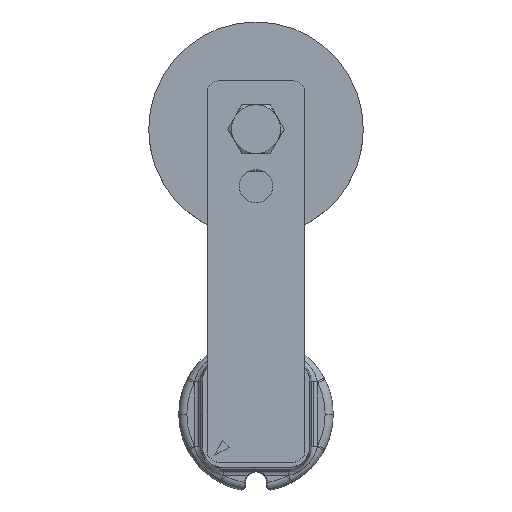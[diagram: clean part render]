
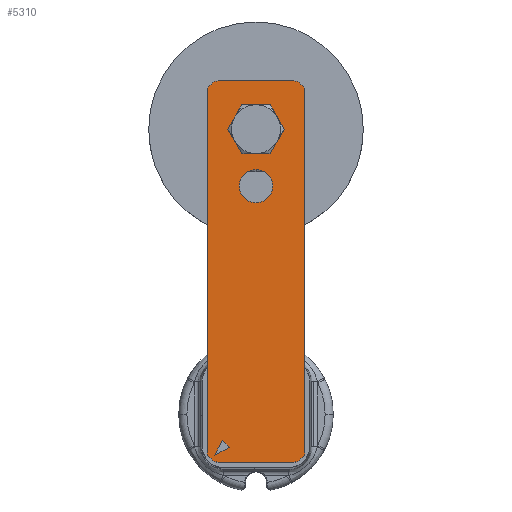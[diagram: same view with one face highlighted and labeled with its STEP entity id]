
A CAD part, top view. The second image highlights one B-rep face of the part: STEP entity #5310.
In plain terms, the highlighted planar face has unit normal (0, 0, 1).
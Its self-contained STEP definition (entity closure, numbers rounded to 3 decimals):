
#4842=CARTESIAN_POINT('',(103.855,17.833,10.0));
#4843=VERTEX_POINT('',#4842);
#4859=CARTESIAN_POINT('',(83.355,17.833,10.0));
#4860=VERTEX_POINT('',#4859);
#4867=CARTESIAN_POINT('',(93.605,17.833,10.0));
#4868=DIRECTION('',(0.0,0.0,-1.0));
#4869=DIRECTION('',(1.0,0.0,0.0));
#4870=AXIS2_PLACEMENT_3D('',#4867,#4868,#4869);
#4871=CIRCLE('',#4870,10.25);
#4872=EDGE_CURVE('',#4843,#4860,#4871,.T.);
#4905=CARTESIAN_POINT('',(68.855,17.833,10.0));
#4906=VERTEX_POINT('',#4905);
#4922=CARTESIAN_POINT('',(48.355,17.833,10.0));
#4923=VERTEX_POINT('',#4922);
#4930=CARTESIAN_POINT('',(58.605,17.833,10.0));
#4931=DIRECTION('',(0.0,0.0,-1.0));
#4932=DIRECTION('',(1.0,0.0,0.0));
#4933=AXIS2_PLACEMENT_3D('',#4930,#4931,#4932);
#4934=CIRCLE('',#4933,10.25);
#4935=EDGE_CURVE('',#4906,#4923,#4934,.T.);
#4955=CARTESIAN_POINT('',(-97.738,38.418,10.0));
#4956=VERTEX_POINT('',#4955);
#4963=CARTESIAN_POINT('',(-106.941,43.357,10.0));
#4964=VERTEX_POINT('',#4963);
#4965=CARTESIAN_POINT('',(-106.941,43.357,10.0));
#4966=DIRECTION('',(0.881,-0.473,0.0));
#4967=VECTOR('',#4966,10.445);
#4968=LINE('',#4965,#4967);
#4969=EDGE_CURVE('',#4964,#4956,#4968,.T.);
#4994=CARTESIAN_POINT('',(-101.981,34.176,10.0));
#4995=VERTEX_POINT('',#4994);
#4996=CARTESIAN_POINT('',(-101.981,34.176,10.0));
#4997=DIRECTION('',(-0.475,0.88,0.0));
#4998=VECTOR('',#4997,10.436);
#4999=LINE('',#4996,#4998);
#5000=EDGE_CURVE('',#4995,#4964,#4999,.T.);
#5023=CARTESIAN_POINT('',(-97.738,38.418,10.0));
#5024=DIRECTION('',(-0.707,-0.707,0.0));
#5025=VECTOR('',#5024,6.);
#5026=LINE('',#5023,#5025);
#5027=EDGE_CURVE('',#4956,#4995,#5026,.T.);
#5071=CARTESIAN_POINT('',(58.605,17.833,10.0));
#5072=DIRECTION('',(0.0,0.0,-1.0));
#5073=DIRECTION('',(1.0,0.0,0.0));
#5074=AXIS2_PLACEMENT_3D('',#5071,#5072,#5073);
#5075=CIRCLE('',#5074,10.25);
#5076=EDGE_CURVE('',#4923,#4906,#5075,.T.);
#5116=CARTESIAN_POINT('',(93.605,17.833,10.0));
#5117=DIRECTION('',(0.0,0.0,-1.0));
#5118=DIRECTION('',(1.0,0.0,0.0));
#5119=AXIS2_PLACEMENT_3D('',#5116,#5117,#5118);
#5120=CIRCLE('',#5119,10.25);
#5121=EDGE_CURVE('',#4860,#4843,#5120,.T.);
#5150=CARTESIAN_POINT('',(123.605,-4.167,10.0));
#5151=VERTEX_POINT('',#5150);
#5158=CARTESIAN_POINT('',(121.262,-9.824,10.0));
#5159=VERTEX_POINT('',#5158);
#5160=CARTESIAN_POINT('',(115.605,-4.167,10.0));
#5161=DIRECTION('',(0.0,0.0,1.));
#5162=DIRECTION('',(0.707,-0.707,0.0));
#5163=AXIS2_PLACEMENT_3D('',#5160,#5161,#5162);
#5164=CIRCLE('',#5163,8.);
#5165=EDGE_CURVE('',#5159,#5151,#5164,.T.);
#5190=CARTESIAN_POINT('',(118.919,-12.167,10.0));
#5191=VERTEX_POINT('',#5190);
#5192=CARTESIAN_POINT('',(118.919,-12.167,10.0));
#5193=DIRECTION('',(0.707,0.707,0.0));
#5194=VECTOR('',#5193,3.314);
#5195=LINE('',#5192,#5194);
#5196=EDGE_CURVE('',#5191,#5159,#5195,.T.);
#5207=CARTESIAN_POINT('',(6.105,17.833,10.0));
#5208=DIRECTION('',(0.0,0.0,1.0));
#5209=DIRECTION('',(1.0,0.0,0.0));
#5210=AXIS2_PLACEMENT_3D('',#5207,#5208,#5209);
#5211=PLANE('',#5210);
#5212=ORIENTED_EDGE('',*,*,#5196,.T.);
#5213=ORIENTED_EDGE('',*,*,#5165,.T.);
#5214=CARTESIAN_POINT('',(123.605,39.833,10.0));
#5215=VERTEX_POINT('',#5214);
#5216=CARTESIAN_POINT('',(123.605,39.833,10.0));
#5217=DIRECTION('',(0.0,-1.0,0.0));
#5218=VECTOR('',#5217,44.);
#5219=LINE('',#5216,#5218);
#5220=EDGE_CURVE('',#5215,#5151,#5219,.T.);
#5221=ORIENTED_EDGE('',*,*,#5220,.F.);
#5222=CARTESIAN_POINT('',(121.262,45.49,10.0));
#5223=VERTEX_POINT('',#5222);
#5224=CARTESIAN_POINT('',(115.605,39.833,10.0));
#5225=DIRECTION('',(0.0,0.0,1.0));
#5226=DIRECTION('',(0.707,0.707,0.0));
#5227=AXIS2_PLACEMENT_3D('',#5224,#5225,#5226);
#5228=CIRCLE('',#5227,8.);
#5229=EDGE_CURVE('',#5215,#5223,#5228,.T.);
#5230=ORIENTED_EDGE('',*,*,#5229,.T.);
#5231=CARTESIAN_POINT('',(118.919,47.833,10.0));
#5232=VERTEX_POINT('',#5231);
#5233=CARTESIAN_POINT('',(121.262,45.49,10.0));
#5234=DIRECTION('',(-0.707,0.707,0.0));
#5235=VECTOR('',#5234,3.314);
#5236=LINE('',#5233,#5235);
#5237=EDGE_CURVE('',#5223,#5232,#5236,.T.);
#5238=ORIENTED_EDGE('',*,*,#5237,.T.);
#5239=CARTESIAN_POINT('',(-106.708,47.833,10.0));
#5240=VERTEX_POINT('',#5239);
#5241=CARTESIAN_POINT('',(-106.708,47.833,10.0));
#5242=DIRECTION('',(1.0,0.0,0.0));
#5243=VECTOR('',#5242,225.627);
#5244=LINE('',#5241,#5243);
#5245=EDGE_CURVE('',#5240,#5232,#5244,.T.);
#5246=ORIENTED_EDGE('',*,*,#5245,.F.);
#5247=CARTESIAN_POINT('',(-109.052,45.49,10.0));
#5248=VERTEX_POINT('',#5247);
#5249=CARTESIAN_POINT('',(-106.708,47.833,10.0));
#5250=DIRECTION('',(-0.707,-0.707,0.0));
#5251=VECTOR('',#5250,3.314);
#5252=LINE('',#5249,#5251);
#5253=EDGE_CURVE('',#5240,#5248,#5252,.T.);
#5254=ORIENTED_EDGE('',*,*,#5253,.T.);
#5255=CARTESIAN_POINT('',(-111.395,39.833,10.0));
#5256=VERTEX_POINT('',#5255);
#5257=CARTESIAN_POINT('',(-103.395,39.833,10.0));
#5258=DIRECTION('',(0.0,0.0,1.));
#5259=DIRECTION('',(-0.707,0.707,0.0));
#5260=AXIS2_PLACEMENT_3D('',#5257,#5258,#5259);
#5261=CIRCLE('',#5260,8.);
#5262=EDGE_CURVE('',#5248,#5256,#5261,.T.);
#5263=ORIENTED_EDGE('',*,*,#5262,.T.);
#5264=CARTESIAN_POINT('',(-111.395,-4.167,10.0));
#5265=VERTEX_POINT('',#5264);
#5266=CARTESIAN_POINT('',(-111.395,-4.167,10.0));
#5267=DIRECTION('',(0.0,1.0,0.0));
#5268=VECTOR('',#5267,44.);
#5269=LINE('',#5266,#5268);
#5270=EDGE_CURVE('',#5265,#5256,#5269,.T.);
#5271=ORIENTED_EDGE('',*,*,#5270,.F.);
#5272=CARTESIAN_POINT('',(-109.052,-9.824,10.0));
#5273=VERTEX_POINT('',#5272);
#5274=CARTESIAN_POINT('',(-103.395,-4.167,10.0));
#5275=DIRECTION('',(0.0,0.0,1.0));
#5276=DIRECTION('',(-0.707,-0.707,0.0));
#5277=AXIS2_PLACEMENT_3D('',#5274,#5275,#5276);
#5278=CIRCLE('',#5277,8.);
#5279=EDGE_CURVE('',#5265,#5273,#5278,.T.);
#5280=ORIENTED_EDGE('',*,*,#5279,.T.);
#5281=CARTESIAN_POINT('',(-106.708,-12.167,10.0));
#5282=VERTEX_POINT('',#5281);
#5283=CARTESIAN_POINT('',(-109.052,-9.824,10.0));
#5284=DIRECTION('',(0.707,-0.707,0.0));
#5285=VECTOR('',#5284,3.314);
#5286=LINE('',#5283,#5285);
#5287=EDGE_CURVE('',#5273,#5282,#5286,.T.);
#5288=ORIENTED_EDGE('',*,*,#5287,.T.);
#5289=CARTESIAN_POINT('',(118.919,-12.167,10.0));
#5290=DIRECTION('',(-1.0,0.0,0.0));
#5291=VECTOR('',#5290,225.627);
#5292=LINE('',#5289,#5291);
#5293=EDGE_CURVE('',#5191,#5282,#5292,.T.);
#5294=ORIENTED_EDGE('',*,*,#5293,.F.);
#5295=EDGE_LOOP('',(#5212,#5213,#5221,#5230,#5238,#5246,#5254,#5263,#5271,#5280,#5288,#5294));
#5296=FACE_OUTER_BOUND('',#5295,.T.);
#5297=ORIENTED_EDGE('',*,*,#4969,.T.);
#5298=ORIENTED_EDGE('',*,*,#5027,.T.);
#5299=ORIENTED_EDGE('',*,*,#5000,.T.);
#5300=EDGE_LOOP('',(#5297,#5298,#5299));
#5301=FACE_BOUND('',#5300,.T.);
#5302=ORIENTED_EDGE('',*,*,#4935,.T.);
#5303=ORIENTED_EDGE('',*,*,#5076,.T.);
#5304=EDGE_LOOP('',(#5302,#5303));
#5305=FACE_BOUND('',#5304,.T.);
#5306=ORIENTED_EDGE('',*,*,#4872,.T.);
#5307=ORIENTED_EDGE('',*,*,#5121,.T.);
#5308=EDGE_LOOP('',(#5306,#5307));
#5309=FACE_BOUND('',#5308,.T.);
#5310=ADVANCED_FACE('',(#5296,#5301,#5305,#5309),#5211,.T.);
